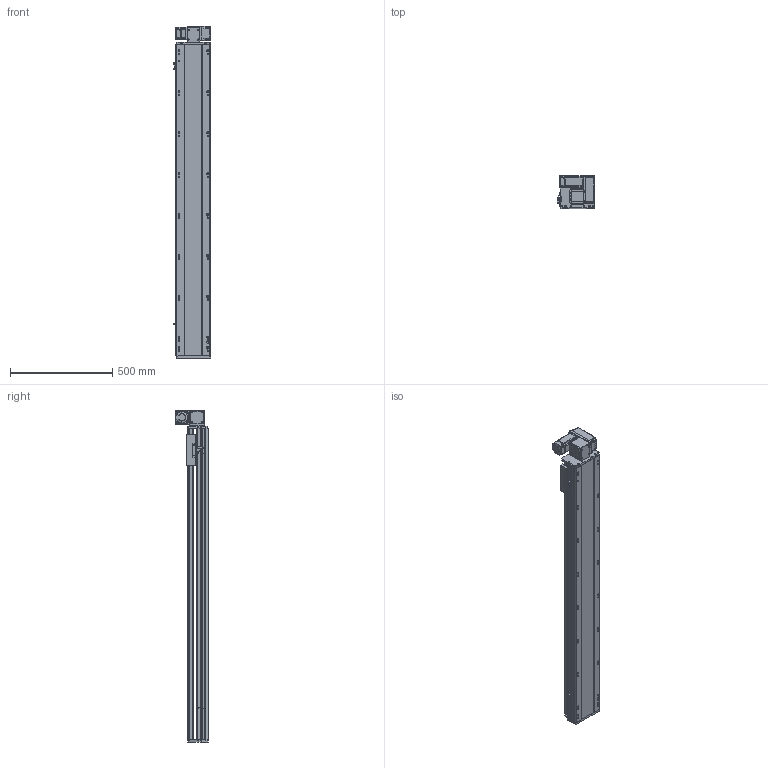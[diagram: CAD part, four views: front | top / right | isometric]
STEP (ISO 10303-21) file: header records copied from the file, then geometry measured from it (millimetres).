
FILE_DESCRIPTION (( 'STEP AP214' ), '1' );
FILE_NAME ('RTB17S-XX-1250-RW-M40-C4.STEP', '2025-12-11T09:01:43', ( '' ), ( '' ), 'SwSTEP 2.0', 'SolidWorks 2018', '' );
FILE_SCHEMA (( 'AUTOMOTIVE_DESIGN' ));
Length unit declared in the file: millimetre
Products named in the file (14): RTH13-BL-012覜茼え俋离^RTB17S-XX-XX-RW-M40-C4; OMRON EE-SX672 传感器^RTB17S-XX-XX-RW-M40-C4; RTB17S-L-001耜醱啣^RTB17S-XX-XX-RW-M40-C4; RTB17-R-011菁釱^RTB17S-XX-XX-RW-M40-C4; RTB17S-RW-々湍釱蚾饜-400W^RTB17S-XX-XX-RW-M40-C4; RMP17S-L-014-T20--々湍釱^RTB17S-RW-々湍釱蚾饜-400W_RTB17S-XX-XX-RW-M40-C4; RTB17S-XX-1250-RW-M40-C4; RTB14-L-005P--轴承塑胶压盖^RTB17S-RW-皮带座装配-400W_RTB17S-XX-XX-RW-M40-C4; RTB14-L-008-M20--萇儂啣^RTB17S-RW-々湍釱蚾饜-400W_RTB17S-XX-XX-RW-M40-C4; RTB17S-L-007奻裔^RTB17S-XX-XX-RW-M40-C4; RTB14-L-017P^RTB17S-RW-々湍釱蚾饜-400W_RTB17S-XX-XX-RW-M40-C4; RTB14-L-018P^RTB17S-RW-々湍釱蚾饜-400W_RTB17S-XX-XX-RW-M40-C4; 400W侜督萇儂^RTB17S-XX-XX-RW-M40-C4; RTB17S-L-004佪裝蹟譫蟀諉釱^RTB17S-XX-XX-RW-M40-C4
Assembly tree (16 placements, depth 3):
  RTB17S-XX-1250-RW-M40-C4
    RTB17-R-011菁釱^RTB17S-XX-XX-RW-M40-C4
    RTB17S-L-007奻裔^RTB17S-XX-XX-RW-M40-C4
    OMRON EE-SX672 传感器^RTB17S-XX-XX-RW-M40-C4  x3
    RTB17S-L-001耜醱啣^RTB17S-XX-XX-RW-M40-C4
    400W侜督萇儂^RTB17S-XX-XX-RW-M40-C4
    RTB17S-L-004佪裝蹟譫蟀諉釱^RTB17S-XX-XX-RW-M40-C4
    RTH13-BL-012覜茼え俋离^RTB17S-XX-XX-RW-M40-C4
    RTB17S-RW-々湍釱蚾饜-400W^RTB17S-XX-XX-RW-M40-C4
      RMP17S-L-014-T20--々湍釱^RTB17S-RW-々湍釱蚾饜-400W_RTB17S-XX-XX-RW-M40-C4
      RTB14-L-005P--轴承塑胶压盖^RTB17S-RW-皮带座装配-400W_RTB17S-XX-XX-RW-M40-C4
      RTB14-L-008-M20--萇儂啣^RTB17S-RW-々湍釱蚾饜-400W_RTB17S-XX-XX-RW-M40-C4
      RTB14-L-017P^RTB17S-RW-々湍釱蚾饜-400W_RTB17S-XX-XX-RW-M40-C4  x2
      RTB14-L-018P^RTB17S-RW-々湍釱蚾饜-400W_RTB17S-XX-XX-RW-M40-C4
Bounding box: 183.5 x 160.5 x 1622.5 mm (x, y, z)
Volume: 14407850.3 mm3; surface area: 1722186.3 mm2
Topology: 15 solids, 15 shells, 2237 faces, 6195 edges, 4041 vertices
Faces by surface type: plane 1072, cylinder 717, bspline 301, cone 139, torus 8
Entity records: 64169 total; most frequent: CARTESIAN_POINT 18000, ORIENTED_EDGE 9234, DIRECTION 8576, EDGE_CURVE 4617, VERTEX_POINT 3029, AXIS2_PLACEMENT_3D 2959, LINE 2658, VECTOR 2658
